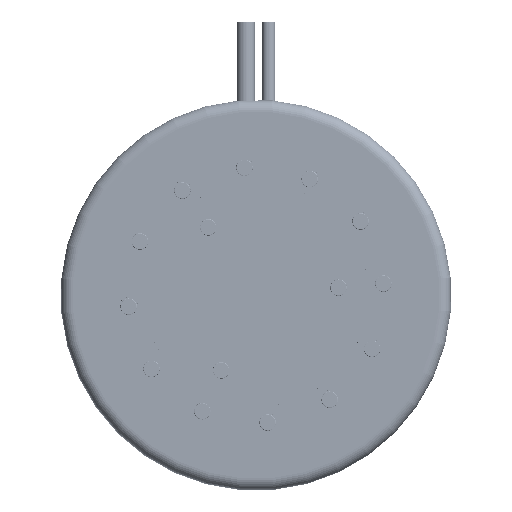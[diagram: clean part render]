
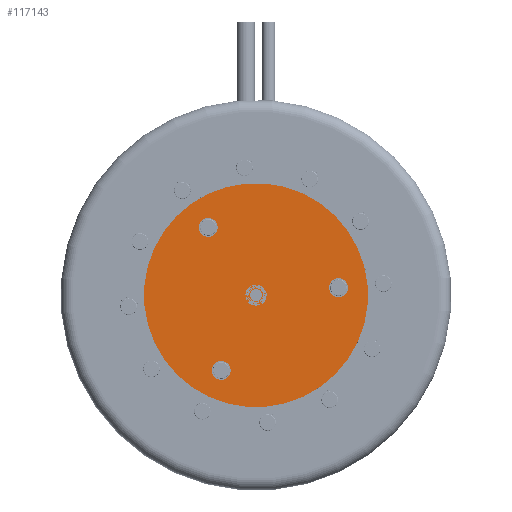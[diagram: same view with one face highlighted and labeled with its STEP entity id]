
A CAD part, top view. The second image highlights one B-rep face of the part: STEP entity #117143.
In plain terms, the highlighted planar face has unit normal (0, 0, 1).
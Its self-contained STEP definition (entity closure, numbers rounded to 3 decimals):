
#1574 = EDGE_CURVE ( 'NONE', #63644, #128115, #48507, .T. ) ;
#1982 = EDGE_CURVE ( 'NONE', #95593, #156997, #9308, .T. ) ;
#4926 = EDGE_CURVE ( 'NONE', #82004, #65475, #156340, .T. ) ;
#5117 = EDGE_CURVE ( 'NONE', #65475, #82004, #32806, .T. ) ;
#6159 = DIRECTION ( 'NONE',  ( -0.908, 0.42, 0. ) ) ;
#6438 = DIRECTION ( 'NONE',  ( 0.908, -0.42, 0. ) ) ;
#7844 = ORIENTED_EDGE ( 'NONE', *, *, #11180, .F. ) ;
#9308 = CIRCLE ( 'NONE', #48624, 47.3 ) ;
#10546 = DIRECTION ( 'NONE',  ( 0., 0., 1. ) ) ;
#10625 = EDGE_LOOP ( 'NONE', ( #100953, #166057 ) ) ;
#11180 = EDGE_CURVE ( 'NONE', #50552, #159672, #107124, .T. ) ;
#16609 = DIRECTION ( 'NONE',  ( 0.908, -0.42, 0. ) ) ;
#16891 = ORIENTED_EDGE ( 'NONE', *, *, #1574, .F. ) ;
#21176 = EDGE_CURVE ( 'NONE', #159672, #50552, #30574, .T. ) ;
#24325 = CARTESIAN_POINT ( 'NONE',  ( -20.165, 28.608, 107.5 ) ) ;
#24572 = CARTESIAN_POINT ( 'NONE',  ( -2.269, 1.049, 107.5 ) ) ;
#26188 = CIRCLE ( 'NONE', #169416, 4. ) ;
#26399 = VERTEX_POINT ( 'NONE', #91400 ) ;
#28527 = AXIS2_PLACEMENT_3D ( 'NONE', #88053, #141680, #100403 ) ;
#29532 = EDGE_CURVE ( 'NONE', #47505, #26399, #26188, .T. ) ;
#30574 = CIRCLE ( 'NONE', #173798, 2.5 ) ;
#32160 = AXIS2_PLACEMENT_3D ( 'NONE', #62689, #169929, #49510 ) ;
#32806 = CIRCLE ( 'NONE', #133825, 4. ) ;
#33413 = FACE_BOUND ( 'NONE', #75855, .T. ) ;
#34260 = PLANE ( 'NONE',  #170472 ) ;
#35437 = DIRECTION ( 'NONE',  ( 0.09, -0.996, 0. ) ) ;
#36299 = DIRECTION ( 'NONE',  ( 0., 0., 1. ) ) ;
#42625 = DIRECTION ( 'NONE',  ( 0., 0., 1. ) ) ;
#44379 = DIRECTION ( 'NONE',  ( -0.09, 0.996, 0. ) ) ;
#45081 = AXIS2_PLACEMENT_3D ( 'NONE', #168216, #36299, #35437 ) ;
#47505 = VERTEX_POINT ( 'NONE', #53375 ) ;
#47638 = CARTESIAN_POINT ( 'NONE',  ( 0., 0., 107.5 ) ) ;
#48350 = DIRECTION ( 'NONE',  ( 0., 0., -1. ) ) ;
#48507 = CIRCLE ( 'NONE', #169229, 4. ) ;
#48624 = AXIS2_PLACEMENT_3D ( 'NONE', #47638, #88932, #101253 ) ;
#49510 = DIRECTION ( 'NONE',  ( 0.908, -0.42, 0. ) ) ;
#50262 = CARTESIAN_POINT ( 'NONE',  ( -11.062, -33.446, 107.5 ) ) ;
#50552 = VERTEX_POINT ( 'NONE', #24572 ) ;
#53375 = CARTESIAN_POINT ( 'NONE',  ( -23.434, 26.303, 107.5 ) ) ;
#54473 = DIRECTION ( 'NONE',  ( 0., 0., 1. ) ) ;
#56519 = ORIENTED_EDGE ( 'NONE', *, *, #21176, .F. ) ;
#62319 = DIRECTION ( 'NONE',  ( 0., 0., 1. ) ) ;
#62689 = CARTESIAN_POINT ( 'NONE',  ( 0., 0., 107.5 ) ) ;
#63644 = VERTEX_POINT ( 'NONE', #112504 ) ;
#64628 = ORIENTED_EDGE ( 'NONE', *, *, #113911, .F. ) ;
#65475 = VERTEX_POINT ( 'NONE', #80556 ) ;
#67554 = CIRCLE ( 'NONE', #45081, 4. ) ;
#68548 = CARTESIAN_POINT ( 'NONE',  ( -14.693, -31.767, 107.5 ) ) ;
#68870 = ORIENTED_EDGE ( 'NONE', *, *, #4926, .F. ) ;
#70994 = CIRCLE ( 'NONE', #172151, 4. ) ;
#75855 = EDGE_LOOP ( 'NONE', ( #56519, #7844 ) ) ;
#80179 = CARTESIAN_POINT ( 'NONE',  ( 35.218, -0.824, 107.5 ) ) ;
#80556 = CARTESIAN_POINT ( 'NONE',  ( -18.323, -30.088, 107.5 ) ) ;
#82004 = VERTEX_POINT ( 'NONE', #50262 ) ;
#86180 = AXIS2_PLACEMENT_3D ( 'NONE', #68548, #54473, #16609 ) ;
#87789 = CARTESIAN_POINT ( 'NONE',  ( -14.693, -31.767, 107.5 ) ) ;
#88053 = CARTESIAN_POINT ( 'NONE',  ( 0., 0., 107.5 ) ) ;
#88873 = CARTESIAN_POINT ( 'NONE',  ( -42.931, 19.856, 107.5 ) ) ;
#88932 = DIRECTION ( 'NONE',  ( 0., 0., -1. ) ) ;
#90300 = DIRECTION ( 'NONE',  ( -0.817, -0.576, 0. ) ) ;
#91400 = CARTESIAN_POINT ( 'NONE',  ( -16.895, 30.912, 107.5 ) ) ;
#92881 = ORIENTED_EDGE ( 'NONE', *, *, #156773, .F. ) ;
#95593 = VERTEX_POINT ( 'NONE', #88873 ) ;
#100272 = FACE_BOUND ( 'NONE', #107858, .T. ) ;
#100403 = DIRECTION ( 'NONE',  ( -0.908, 0.42, 0. ) ) ;
#100953 = ORIENTED_EDGE ( 'NONE', *, *, #146261, .F. ) ;
#101128 = FACE_BOUND ( 'NONE', #111611, .T. ) ;
#101253 = DIRECTION ( 'NONE',  ( -0.908, 0.42, 0. ) ) ;
#107124 = CIRCLE ( 'NONE', #28527, 2.5 ) ;
#107858 = EDGE_LOOP ( 'NONE', ( #16891, #92881 ) ) ;
#111293 = EDGE_LOOP ( 'NONE', ( #68870, #133603 ) ) ;
#111611 = EDGE_LOOP ( 'NONE', ( #146675, #64628 ) ) ;
#112031 = CARTESIAN_POINT ( 'NONE',  ( 0., 0., 107.5 ) ) ;
#112504 = CARTESIAN_POINT ( 'NONE',  ( 34.496, 7.143, 107.5 ) ) ;
#113911 = EDGE_CURVE ( 'NONE', #26399, #47505, #70994, .T. ) ;
#117143 = ADVANCED_FACE ( 'NONE', ( #100272, #101128, #154763, #33413, #168798 ), #34260, .F. ) ;
#117854 = CARTESIAN_POINT ( 'NONE',  ( 42.931, -19.856, 107.5 ) ) ;
#118692 = CARTESIAN_POINT ( 'NONE',  ( -20.165, 28.608, 107.5 ) ) ;
#124745 = CARTESIAN_POINT ( 'NONE',  ( 2.269, -1.049, 107.5 ) ) ;
#128115 = VERTEX_POINT ( 'NONE', #80179 ) ;
#133603 = ORIENTED_EDGE ( 'NONE', *, *, #5117, .F. ) ;
#133825 = AXIS2_PLACEMENT_3D ( 'NONE', #87789, #62319, #139703 ) ;
#139703 = DIRECTION ( 'NONE',  ( -0.908, 0.42, 0. ) ) ;
#141680 = DIRECTION ( 'NONE',  ( 0., 0., 1. ) ) ;
#142486 = DIRECTION ( 'NONE',  ( 0.817, 0.576, 0. ) ) ;
#144144 = CARTESIAN_POINT ( 'NONE',  ( 0., 0., 107.5 ) ) ;
#146261 = EDGE_CURVE ( 'NONE', #156997, #95593, #147256, .T. ) ;
#146675 = ORIENTED_EDGE ( 'NONE', *, *, #29532, .F. ) ;
#147256 = CIRCLE ( 'NONE', #32160, 47.3 ) ;
#153383 = CARTESIAN_POINT ( 'NONE',  ( 34.857, 3.159, 107.5 ) ) ;
#154763 = FACE_BOUND ( 'NONE', #111293, .T. ) ;
#156340 = CIRCLE ( 'NONE', #86180, 4. ) ;
#156773 = EDGE_CURVE ( 'NONE', #128115, #63644, #67554, .T. ) ;
#156997 = VERTEX_POINT ( 'NONE', #117854 ) ;
#159672 = VERTEX_POINT ( 'NONE', #124745 ) ;
#166057 = ORIENTED_EDGE ( 'NONE', *, *, #1982, .F. ) ;
#166497 = DIRECTION ( 'NONE',  ( 0., 0., 1. ) ) ;
#168216 = CARTESIAN_POINT ( 'NONE',  ( 34.857, 3.159, 107.5 ) ) ;
#168798 = FACE_OUTER_BOUND ( 'NONE', #10625, .T. ) ;
#169229 = AXIS2_PLACEMENT_3D ( 'NONE', #153383, #42625, #44379 ) ;
#169416 = AXIS2_PLACEMENT_3D ( 'NONE', #24325, #172026, #90300 ) ;
#169929 = DIRECTION ( 'NONE',  ( 0., 0., -1. ) ) ;
#170472 = AXIS2_PLACEMENT_3D ( 'NONE', #144144, #48350, #6159 ) ;
#172026 = DIRECTION ( 'NONE',  ( 0., 0., 1. ) ) ;
#172151 = AXIS2_PLACEMENT_3D ( 'NONE', #118692, #10546, #142486 ) ;
#173798 = AXIS2_PLACEMENT_3D ( 'NONE', #112031, #166497, #6438 ) ;
